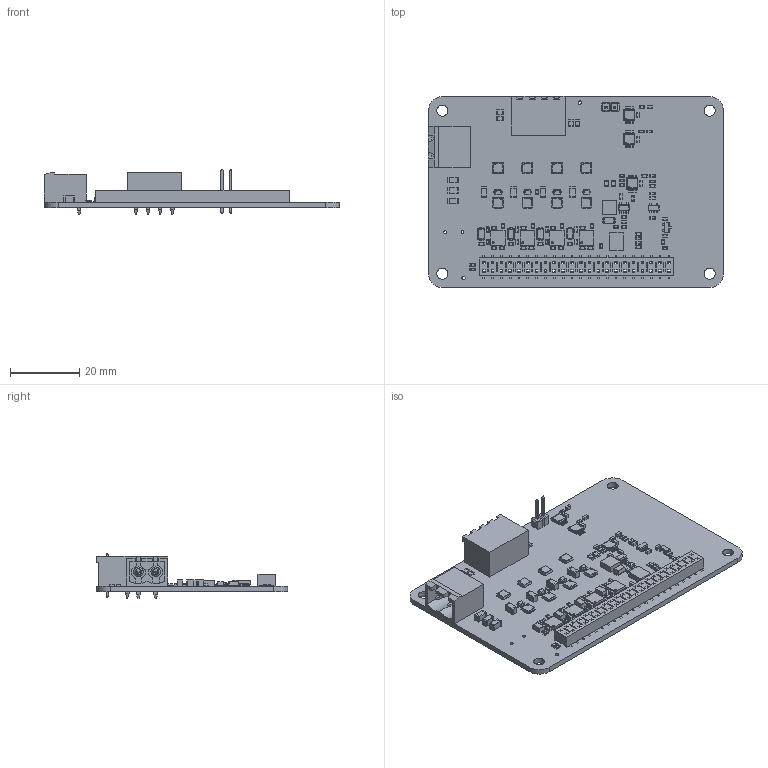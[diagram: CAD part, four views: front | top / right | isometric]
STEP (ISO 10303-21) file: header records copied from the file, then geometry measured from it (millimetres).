
FILE_DESCRIPTION(('Open CASCADE Model'),'2;1');
FILE_NAME('Open CASCADE Shape Model','2019-04-14T16:46:45',('Author'),( 'Open CASCADE'),'Open CASCADE STEP processor 6.8','Open CASCADE 6.8' ,'Unknown');
FILE_SCHEMA(('AUTOMOTIVE_DESIGN { 1 0 10303 214 1 1 1 1 }'));
Length unit declared in the file: millimetre
Products named in the file (164): PCB; Board; Open CASCADE STEP translator 6.8 1.1.1; R24; RESC1608_EIA_0603; R23; R22; R21; R20; R19; R18; R17; R39; R38; RESC2012_EIA_0805; C34; CAPC1608X92N_EIA_0603; C30; R29; C27; C24; C23; R33; R34; C28; C32; R10; C8; D9; 6658922736; Open_CASCADE_STEP_translator_6.8_8.1; Body; Open_CASCADE_STEP_translator_6.8_8.2.1; Leader; D8; D7; D6; U2; 6658928496; Open_CASCADE_STEP_translator_6.8_11.1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
Assembly tree (277 placements, depth 5):
  PCB
    Board
      Open CASCADE STEP translator 6.8 1.1.1
    R24
      RESC1608_EIA_0603
    R23
      RESC1608_EIA_0603
    R22
      RESC1608_EIA_0603
    R21
      RESC1608_EIA_0603
    R20
      RESC1608_EIA_0603
    R19
      RESC1608_EIA_0603
    R18
      RESC1608_EIA_0603
    R17
      RESC1608_EIA_0603
    R39
      RESC1608_EIA_0603
    R38
      RESC2012_EIA_0805
    C34
      CAPC1608X92N_EIA_0603
    C30
      CAPC1608X92N_EIA_0603
    R29
      RESC1608_EIA_0603
    C27
      CAPC1608X92N_EIA_0603
    C24
      CAPC1608X92N_EIA_0603
    C23
      CAPC1608X92N_EIA_0603
    R33
      RESC1608_EIA_0603
    R34
      RESC1608_EIA_0603
    C28
      CAPC1608X92N_EIA_0603
    C32
      CAPC1608X92N_EIA_0603
    R10
      RESC1608_EIA_0603
    C8
      CAPC1608X92N_EIA_0603
    D9
      6658922736
        Open_CASCADE_STEP_translator_6.8_8.1
        Body
          Open_CASCADE_STEP_translator_6.8_8.2.1
        Leader  x2
    D8
      6658922736
        Open_CASCADE_STEP_translator_6.8_8.1
        Body
          Open_CASCADE_STEP_translator_6.8_8.2.1
        Leader  x2
    D7
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Bounding box: 85 x 55.1 x 13 mm (x, y, z)
Volume: 10198.3 mm3; surface area: 17301.4 mm2
Topology: 354 solids, 402 shells, 8037 faces, 19176 edges, 11502 vertices
Faces by surface type: plane 5951, cylinder 1552, sphere 438, bspline 94, cone 2
Full cylindrical faces by diameter (mm): 0.4 x3, 0.512 x4, 0.75 x2, 0.8 x2, 0.9 x2, 1 x2, 1.1 x44, 1.5 x4, 1.6 x2, 1.8 x2, 2.75 x2, 3.2 x4
Entity records: 94602 total; most frequent: CARTESIAN_POINT 17354, ORIENTED_EDGE 12913, DIRECTION 12477, EDGE_CURVE 6465, LINE 5579, VECTOR 5579, VERTEX_POINT 4072, AXIS2_PLACEMENT_3D 3449
